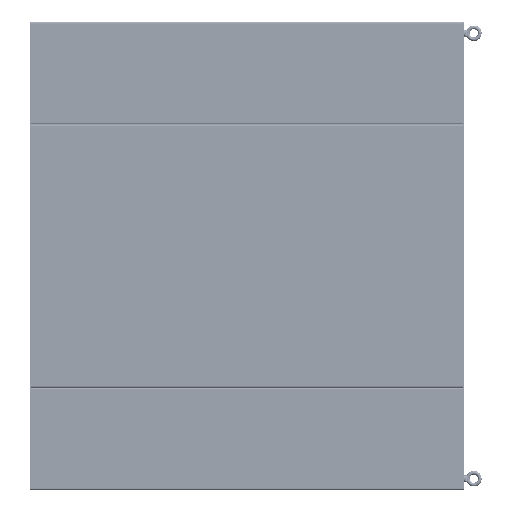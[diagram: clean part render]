
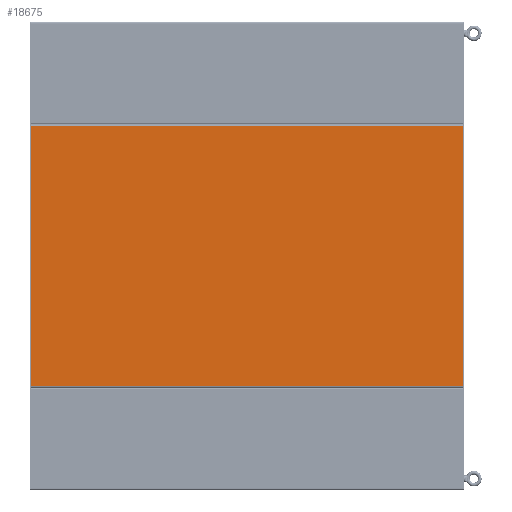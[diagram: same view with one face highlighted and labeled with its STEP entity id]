
A CAD part, left-side view. The second image highlights one B-rep face of the part: STEP entity #18675.
In plain terms, the highlighted planar face has unit normal (-1, 0, 0) as drawn and (0, 0, -1) by its records, which use the part's own axes.
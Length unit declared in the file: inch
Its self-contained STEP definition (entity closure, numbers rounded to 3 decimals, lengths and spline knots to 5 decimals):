
#18211=DIRECTION('',(0.,-1.,0.));
#18212=VECTOR('',#18211,71.75);
#18213=CARTESIAN_POINT('',(-21.625,0.,-0.125));
#18214=LINE('',#18213,#18212);
#18226=DIRECTION('',(1.,0.,0.));
#18227=VECTOR('',#18226,43.25);
#18228=CARTESIAN_POINT('',(-21.625,-71.75,-0.125));
#18229=LINE('',#18228,#18227);
#18233=DIRECTION('',(-1.,0.,0.));
#18234=VECTOR('',#18233,43.25);
#18235=CARTESIAN_POINT('',(21.625,0.,-0.125));
#18236=LINE('',#18235,#18234);
#18269=DIRECTION('',(0.,1.,0.));
#18270=VECTOR('',#18269,71.75);
#18271=CARTESIAN_POINT('',(21.625,-71.75,-0.125));
#18272=LINE('',#18271,#18270);
#18476=CARTESIAN_POINT('',(21.625,0.,-0.125));
#18477=VERTEX_POINT('',#18476);
#18478=CARTESIAN_POINT('',(21.625,-71.75,-0.125));
#18479=VERTEX_POINT('',#18478);
#18492=CARTESIAN_POINT('',(-21.625,-71.75,-0.125));
#18493=VERTEX_POINT('',#18492);
#18494=CARTESIAN_POINT('',(-21.625,0.,-0.125));
#18495=VERTEX_POINT('',#18494);
#18661=CARTESIAN_POINT('',(0.,0.,-0.125));
#18662=DIRECTION('',(0.,0.,1.));
#18663=DIRECTION('',(1.,0.,0.));
#18664=AXIS2_PLACEMENT_3D('',#18661,#18662,#18663);
#18665=PLANE('',#18664);
#18666=ORIENTED_EDGE('',*,*,#18654,.T.);
#18668=ORIENTED_EDGE('',*,*,#18667,.T.);
#18670=ORIENTED_EDGE('',*,*,#18669,.T.);
#18672=ORIENTED_EDGE('',*,*,#18671,.T.);
#18673=EDGE_LOOP('',(#18666,#18668,#18670,#18672));
#18674=FACE_OUTER_BOUND('',#18673,.F.);
#18654=EDGE_CURVE('',#18495,#18493,#18214,.T.);
#18667=EDGE_CURVE('',#18493,#18479,#18229,.T.);
#18669=EDGE_CURVE('',#18479,#18477,#18272,.T.);
#18671=EDGE_CURVE('',#18477,#18495,#18236,.T.);
#18675=ADVANCED_FACE('',(#18674),#18665,.F.);
